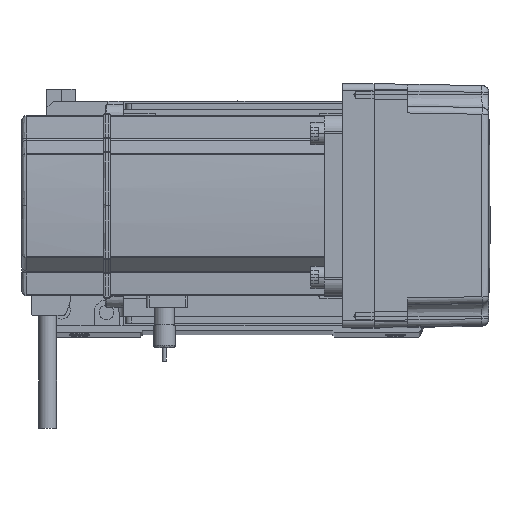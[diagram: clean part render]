
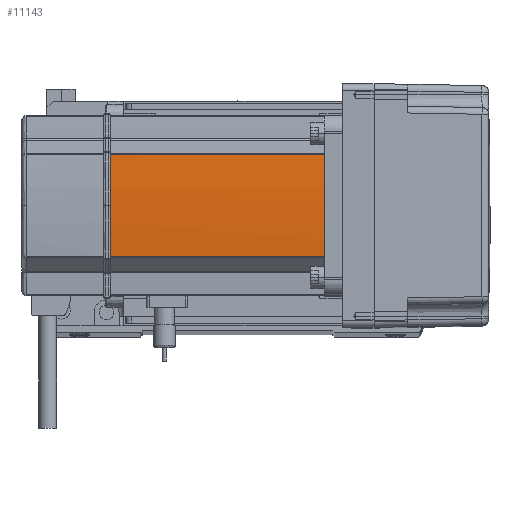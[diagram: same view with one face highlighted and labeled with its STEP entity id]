
A CAD part, top view. The second image highlights one B-rep face of the part: STEP entity #11143.
In plain terms, the highlighted cylindrical face has radius 270 mm (diameter 540 mm), a partial arc.
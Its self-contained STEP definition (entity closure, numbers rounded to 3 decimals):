
#2072 = LINE ( 'NONE', #58625, #57419 ) ;
#8476 = DIRECTION ( 'NONE',  ( 1., 0., 0. ) ) ;
#9240 = CARTESIAN_POINT ( 'NONE',  ( -39.042, -22.724, 39. ) ) ;
#10439 = VERTEX_POINT ( 'NONE', #9240 ) ;
#10488 = VERTEX_POINT ( 'NONE', #38558 ) ;
#10768 = VERTEX_POINT ( 'NONE', #35571 ) ;
#11143 = ADVANCED_FACE ( 'NONE', ( #39984 ), #32219, .T. ) ;
#11821 = DIRECTION ( 'NONE',  ( 0., 0., -1. ) ) ;
#12018 = DIRECTION ( 'NONE',  ( 0., 0., -1. ) ) ;
#12356 = ORIENTED_EDGE ( 'NONE', *, *, #18907, .T. ) ;
#13250 = DIRECTION ( 'NONE',  ( 0., 0., -1. ) ) ;
#14747 = CARTESIAN_POINT ( 'NONE',  ( -39.042, 22.724, 134. ) ) ;
#16596 = ORIENTED_EDGE ( 'NONE', *, *, #31814, .T. ) ;
#18706 = VERTEX_POINT ( 'NONE', #14747 ) ;
#18907 = EDGE_CURVE ( 'NONE', #42156, #10488, #47108, .T. ) ;
#19010 = EDGE_CURVE ( 'NONE', #18706, #10768, #51399, .T. ) ;
#20085 = AXIS2_PLACEMENT_3D ( 'NONE', #31505, #13250, #8476 ) ;
#21594 = EDGE_CURVE ( 'NONE', #10439, #42156, #2072, .T. ) ;
#24552 = ORIENTED_EDGE ( 'NONE', *, *, #19010, .T. ) ;
#25108 = CARTESIAN_POINT ( 'NONE',  ( -39.042, 22.724, 0. ) ) ;
#26053 = CARTESIAN_POINT ( 'NONE',  ( -39.042, -22.724, 134. ) ) ;
#27254 = VECTOR ( 'NONE', #11821, 1000. ) ;
#27636 = DIRECTION ( 'NONE',  ( 0., 0., -1. ) ) ;
#29648 = DIRECTION ( 'NONE',  ( 1., 0., 0. ) ) ;
#30584 = DIRECTION ( 'NONE',  ( 0., 0., 1. ) ) ;
#31464 = DIRECTION ( 'NONE',  ( 0., 0., 1. ) ) ;
#31505 = CARTESIAN_POINT ( 'NONE',  ( 230., 0., 39. ) ) ;
#31814 = EDGE_CURVE ( 'NONE', #10488, #18706, #38823, .T. ) ;
#32219 = CYLINDRICAL_SURFACE ( 'NONE', #47891, 270. ) ;
#33012 = ORIENTED_EDGE ( 'NONE', *, *, #55620, .F. ) ;
#34899 = AXIS2_PLACEMENT_3D ( 'NONE', #52339, #12018, #29648 ) ;
#35571 = CARTESIAN_POINT ( 'NONE',  ( -39.042, 22.724, 39. ) ) ;
#38558 = CARTESIAN_POINT ( 'NONE',  ( -40., 0., 134. ) ) ;
#38823 = CIRCLE ( 'NONE', #57855, 270. ) ;
#39984 = FACE_OUTER_BOUND ( 'NONE', #57680, .T. ) ;
#42156 = VERTEX_POINT ( 'NONE', #26053 ) ;
#45761 = CIRCLE ( 'NONE', #20085, 270. ) ;
#47108 = CIRCLE ( 'NONE', #34899, 270. ) ;
#47891 = AXIS2_PLACEMENT_3D ( 'NONE', #57754, #30584, #48858 ) ;
#48858 = DIRECTION ( 'NONE',  ( 1., 0., 0. ) ) ;
#51399 = LINE ( 'NONE', #25108, #27254 ) ;
#52339 = CARTESIAN_POINT ( 'NONE',  ( 230., 0., 134. ) ) ;
#54689 = ORIENTED_EDGE ( 'NONE', *, *, #21594, .T. ) ;
#54832 = DIRECTION ( 'NONE',  ( 1., 0., 0. ) ) ;
#55219 = CARTESIAN_POINT ( 'NONE',  ( 230., 0., 134. ) ) ;
#55620 = EDGE_CURVE ( 'NONE', #10439, #10768, #45761, .T. ) ;
#57419 = VECTOR ( 'NONE', #31464, 1000. ) ;
#57680 = EDGE_LOOP ( 'NONE', ( #12356, #16596, #24552, #33012, #54689 ) ) ;
#57754 = CARTESIAN_POINT ( 'NONE',  ( 230., 0., 0. ) ) ;
#57855 = AXIS2_PLACEMENT_3D ( 'NONE', #55219, #27636, #54832 ) ;
#58625 = CARTESIAN_POINT ( 'NONE',  ( -39.042, -22.724, 0. ) ) ;
